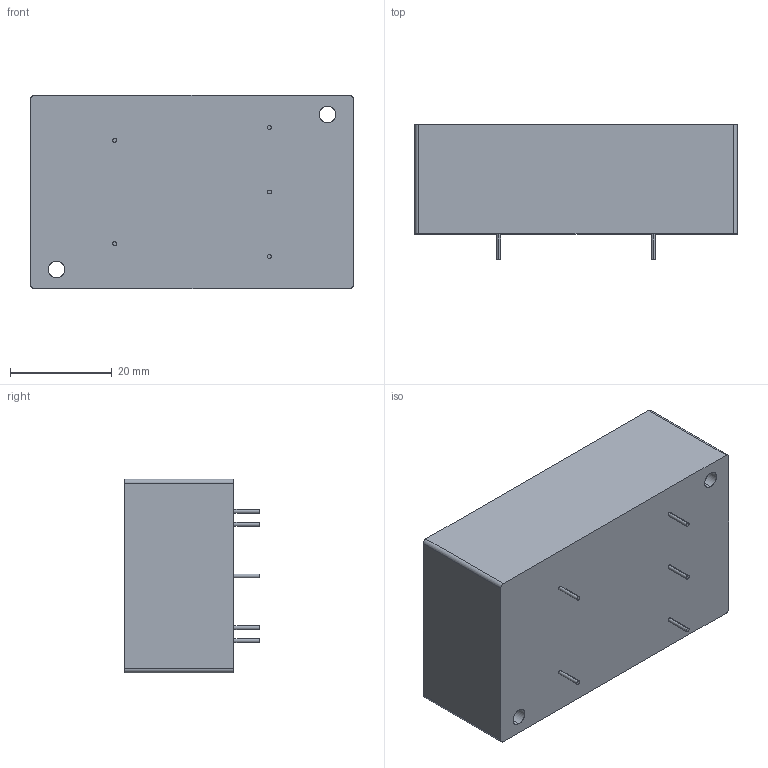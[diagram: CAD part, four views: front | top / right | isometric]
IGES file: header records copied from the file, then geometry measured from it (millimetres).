
Start section: SolidWorks IGES file using analytic representation for surfaces
Global section: file name: C:\Users\asmith\Desktop\~For Darol\Checked .igs Files\E-Series\E02-E60 wCT.IGS; native system: SolidWorks 2017; preprocessor: SolidWorks 2017; author: asmith; date: 171113.101828; units: inch
Bounding box: 63.5 x 26.67 x 38.1 mm (x, y, z)
Surface area: 9670.1 mm2 (no closed solid volume)
Topology: 0 solids, 0 shells, 29 faces, 416 edges, 416 vertices
Faces by surface type: revolution 18, bspline 11
